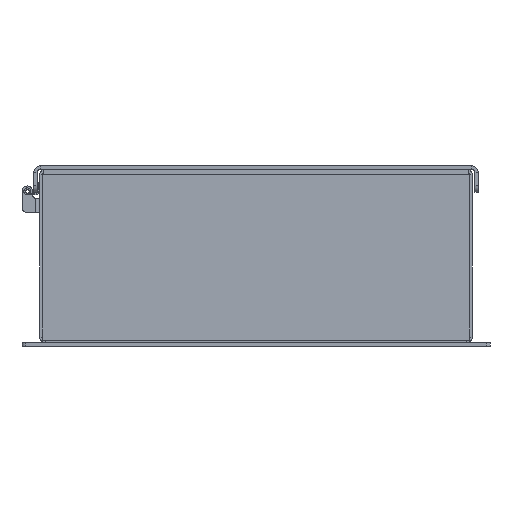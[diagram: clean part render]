
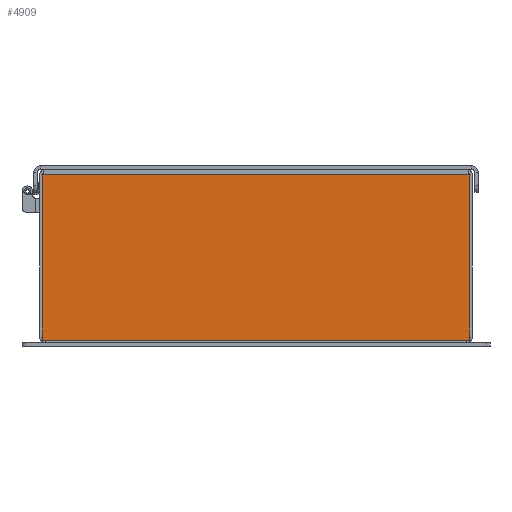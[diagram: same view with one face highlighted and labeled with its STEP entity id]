
A CAD part, front view. The second image highlights one B-rep face of the part: STEP entity #4909.
In plain terms, the highlighted planar face has unit normal (0, -1, 0).
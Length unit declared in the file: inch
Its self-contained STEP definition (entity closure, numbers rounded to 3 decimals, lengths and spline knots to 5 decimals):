
#4882 = EDGE_CURVE ( 'NONE', #4900, #4883, #13481, .T. ) ;
#4883 = VERTEX_POINT ( 'NONE', #13477 ) ;
#4898 = EDGE_CURVE ( 'NONE', #4899, #4900, #13526, .T. ) ;
#4899 = VERTEX_POINT ( 'NONE', #13522 ) ;
#4900 = VERTEX_POINT ( 'NONE', #13521 ) ;
#4909 = ADVANCED_FACE ( 'NONE', ( #13511 ), #13510, .T. ) ;
#4910 = EDGE_LOOP ( 'NONE', ( #4911, #4912, #4913, #4914 ) ) ;
#4911 = ORIENTED_EDGE ( 'NONE', *, *, #4898, .F. ) ;
#4912 = ORIENTED_EDGE ( 'NONE', *, *, #4923, .F. ) ;
#4913 = ORIENTED_EDGE ( 'NONE', *, *, #4938, .F. ) ;
#4914 = ORIENTED_EDGE ( 'NONE', *, *, #4882, .F. ) ;
#4923 = EDGE_CURVE ( 'NONE', #4939, #4899, #13553, .T. ) ;
#4938 = EDGE_CURVE ( 'NONE', #4883, #4939, #13593, .T. ) ;
#4939 = VERTEX_POINT ( 'NONE', #13589 ) ;
#13477 = CARTESIAN_POINT ( 'NONE',  ( 15., 0., 5.81 ) ) ;
#13478 = DIRECTION ( 'NONE',  ( 1., 0., 0. ) ) ;
#13479 = VECTOR ( 'NONE', #13478, 39.37008 ) ;
#13480 = CARTESIAN_POINT ( 'NONE',  ( -15., 0., 5.81 ) ) ;
#13481 = LINE ( 'NONE', #13480, #13479 ) ;
#13506 = DIRECTION ( 'NONE',  ( 0., 0., -1. ) ) ;
#13507 = DIRECTION ( 'NONE',  ( 0., -1., 0. ) ) ;
#13508 = CARTESIAN_POINT ( 'NONE',  ( -15., 0., 5.81 ) ) ;
#13509 = AXIS2_PLACEMENT_3D ( 'NONE', #13508, #13507, #13506 ) ;
#13510 = PLANE ( 'NONE',  #13509 ) ;
#13511 = FACE_OUTER_BOUND ( 'NONE', #4910, .T. ) ;
#13521 = CARTESIAN_POINT ( 'NONE',  ( -15., 0., 5.81 ) ) ;
#13522 = CARTESIAN_POINT ( 'NONE',  ( -15., 0., -5.81 ) ) ;
#13523 = DIRECTION ( 'NONE',  ( 0., 0., 1. ) ) ;
#13524 = VECTOR ( 'NONE', #13523, 39.37008 ) ;
#13525 = CARTESIAN_POINT ( 'NONE',  ( -15., 0., 5.81 ) ) ;
#13526 = LINE ( 'NONE', #13525, #13524 ) ;
#13550 = DIRECTION ( 'NONE',  ( -1., 0., 0. ) ) ;
#13551 = VECTOR ( 'NONE', #13550, 39.37008 ) ;
#13552 = CARTESIAN_POINT ( 'NONE',  ( -15., 0., -5.81 ) ) ;
#13553 = LINE ( 'NONE', #13552, #13551 ) ;
#13589 = CARTESIAN_POINT ( 'NONE',  ( 15., 0., -5.81 ) ) ;
#13590 = DIRECTION ( 'NONE',  ( 0., 0., -1. ) ) ;
#13591 = VECTOR ( 'NONE', #13590, 39.37008 ) ;
#13592 = CARTESIAN_POINT ( 'NONE',  ( 15., 0., 5.81 ) ) ;
#13593 = LINE ( 'NONE', #13592, #13591 ) ;
